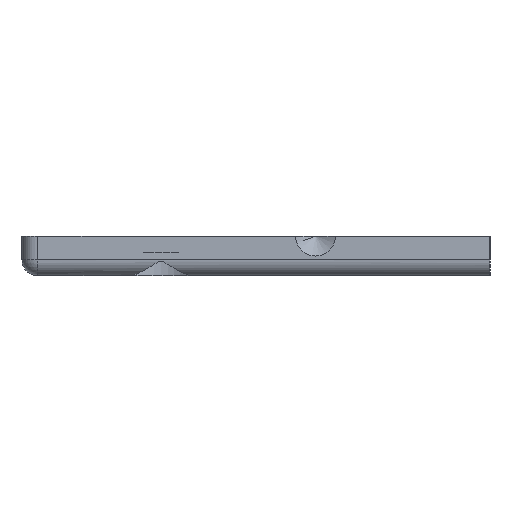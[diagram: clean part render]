
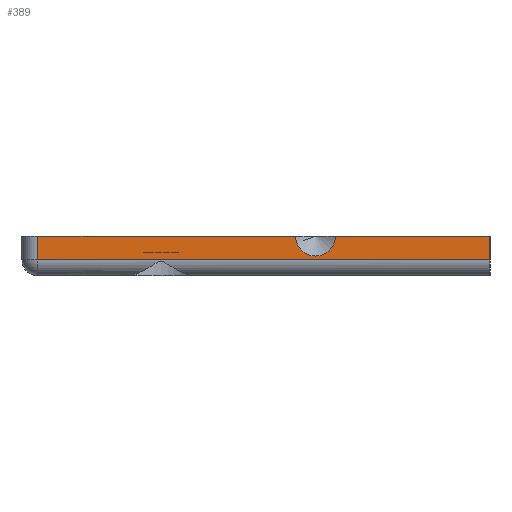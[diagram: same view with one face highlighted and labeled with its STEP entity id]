
A CAD part, left-side view. The second image highlights one B-rep face of the part: STEP entity #389.
In plain terms, the highlighted planar face has unit normal (-1, 0, 0).
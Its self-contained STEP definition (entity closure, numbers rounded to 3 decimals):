
#32 = PLANE('',#33);
#33 = AXIS2_PLACEMENT_3D('',#34,#35,#36);
#34 = CARTESIAN_POINT('',(-71.,-29.5,5.));
#35 = DIRECTION('',(0.,1.,0.));
#36 = DIRECTION('',(-1.,0.,0.));
#118 = VERTEX_POINT('',#119);
#119 = CARTESIAN_POINT('',(-71.,-29.5,5.));
#133 = PLANE('',#134);
#134 = AXIS2_PLACEMENT_3D('',#135,#136,#137);
#135 = CARTESIAN_POINT('',(0.,0.,5.));
#136 = DIRECTION('',(0.,0.,1.));
#137 = DIRECTION('',(1.,0.,-0.));
#145 = EDGE_CURVE('',#118,#146,#148,.T.);
#146 = VERTEX_POINT('',#147);
#147 = CARTESIAN_POINT('',(-71.,-29.5,2.));
#148 = SURFACE_CURVE('',#149,(#153,#160),.PCURVE_S1.);
#149 = LINE('',#150,#151);
#150 = CARTESIAN_POINT('',(-71.,-29.5,5.));
#151 = VECTOR('',#152,1.);
#152 = DIRECTION('',(0.,0.,-1.));
#153 = PCURVE('',#32,#154);
#154 = DEFINITIONAL_REPRESENTATION('',(#155),#159);
#155 = LINE('',#156,#157);
#156 = CARTESIAN_POINT('',(0.,0.));
#157 = VECTOR('',#158,1.);
#158 = DIRECTION('',(0.,-1.));
#159 = ( GEOMETRIC_REPRESENTATION_CONTEXT(2) 
PARAMETRIC_REPRESENTATION_CONTEXT() REPRESENTATION_CONTEXT('2D SPACE',''
  ) );
#160 = PCURVE('',#161,#166);
#161 = PLANE('',#162);
#162 = AXIS2_PLACEMENT_3D('',#163,#164,#165);
#163 = CARTESIAN_POINT('',(-71.,29.5,5.));
#164 = DIRECTION('',(1.,0.,0.));
#165 = DIRECTION('',(0.,0.,-1.));
#166 = DEFINITIONAL_REPRESENTATION('',(#167),#171);
#167 = LINE('',#168,#169);
#168 = CARTESIAN_POINT('',(0.,-59.));
#169 = VECTOR('',#170,1.);
#170 = DIRECTION('',(1.,0.));
#171 = ( GEOMETRIC_REPRESENTATION_CONTEXT(2) 
PARAMETRIC_REPRESENTATION_CONTEXT() REPRESENTATION_CONTEXT('2D SPACE',''
  ) );
#192 = CYLINDRICAL_SURFACE('',#193,2.);
#193 = AXIS2_PLACEMENT_3D('',#194,#195,#196);
#194 = CARTESIAN_POINT('',(-69.,29.5,2.));
#195 = DIRECTION('',(0.,-1.,0.));
#196 = DIRECTION('',(0.,0.,-1.));
#378 = CYLINDRICAL_SURFACE('',#379,2.);
#379 = AXIS2_PLACEMENT_3D('',#380,#381,#382);
#380 = CARTESIAN_POINT('',(-69.,27.5,5.));
#381 = DIRECTION('',(0.,0.,-1.));
#382 = DIRECTION('',(-1.,0.,0.));
#389 = ADVANCED_FACE('',(#390),#161,.F.);
#390 = FACE_BOUND('',#391,.T.);
#391 = EDGE_LOOP('',(#392,#415,#444,#467,#490,#511));
#392 = ORIENTED_EDGE('',*,*,#393,.F.);
#393 = EDGE_CURVE('',#394,#118,#396,.T.);
#394 = VERTEX_POINT('',#395);
#395 = CARTESIAN_POINT('',(-71.,-10.,5.));
#396 = SURFACE_CURVE('',#397,(#401,#408),.PCURVE_S1.);
#397 = LINE('',#398,#399);
#398 = CARTESIAN_POINT('',(-71.,29.5,5.));
#399 = VECTOR('',#400,1.);
#400 = DIRECTION('',(0.,-1.,0.));
#401 = PCURVE('',#161,#402);
#402 = DEFINITIONAL_REPRESENTATION('',(#403),#407);
#403 = LINE('',#404,#405);
#404 = CARTESIAN_POINT('',(0.,0.));
#405 = VECTOR('',#406,1.);
#406 = DIRECTION('',(0.,-1.));
#407 = ( GEOMETRIC_REPRESENTATION_CONTEXT(2) 
PARAMETRIC_REPRESENTATION_CONTEXT() REPRESENTATION_CONTEXT('2D SPACE',''
  ) );
#408 = PCURVE('',#133,#409);
#409 = DEFINITIONAL_REPRESENTATION('',(#410),#414);
#410 = LINE('',#411,#412);
#411 = CARTESIAN_POINT('',(-71.,29.5));
#412 = VECTOR('',#413,1.);
#413 = DIRECTION('',(0.,-1.));
#414 = ( GEOMETRIC_REPRESENTATION_CONTEXT(2) 
PARAMETRIC_REPRESENTATION_CONTEXT() REPRESENTATION_CONTEXT('2D SPACE',''
  ) );
#415 = ORIENTED_EDGE('',*,*,#416,.T.);
#416 = EDGE_CURVE('',#394,#417,#419,.T.);
#417 = VERTEX_POINT('',#418);
#418 = CARTESIAN_POINT('',(-71.,-5.,5.));
#419 = SURFACE_CURVE('',#420,(#425,#432),.PCURVE_S1.);
#420 = CIRCLE('',#421,2.5);
#421 = AXIS2_PLACEMENT_3D('',#422,#423,#424);
#422 = CARTESIAN_POINT('',(-71.,-7.5,5.));
#423 = DIRECTION('',(1.,0.,0.));
#424 = DIRECTION('',(0.,0.,-1.));
#425 = PCURVE('',#161,#426);
#426 = DEFINITIONAL_REPRESENTATION('',(#427),#431);
#427 = CIRCLE('',#428,2.5);
#428 = AXIS2_PLACEMENT_2D('',#429,#430);
#429 = CARTESIAN_POINT('',(0.,-37.));
#430 = DIRECTION('',(1.,0.));
#431 = ( GEOMETRIC_REPRESENTATION_CONTEXT(2) 
PARAMETRIC_REPRESENTATION_CONTEXT() REPRESENTATION_CONTEXT('2D SPACE',''
  ) );
#432 = PCURVE('',#433,#438);
#433 = CYLINDRICAL_SURFACE('',#434,2.5);
#434 = AXIS2_PLACEMENT_3D('',#435,#436,#437);
#435 = CARTESIAN_POINT('',(-71.,-7.5,5.));
#436 = DIRECTION('',(1.,0.,0.));
#437 = DIRECTION('',(0.,0.,-1.));
#438 = DEFINITIONAL_REPRESENTATION('',(#439),#443);
#439 = LINE('',#440,#441);
#440 = CARTESIAN_POINT('',(0.,0.));
#441 = VECTOR('',#442,1.);
#442 = DIRECTION('',(1.,0.));
#443 = ( GEOMETRIC_REPRESENTATION_CONTEXT(2) 
PARAMETRIC_REPRESENTATION_CONTEXT() REPRESENTATION_CONTEXT('2D SPACE',''
  ) );
#444 = ORIENTED_EDGE('',*,*,#445,.F.);
#445 = EDGE_CURVE('',#446,#417,#448,.T.);
#446 = VERTEX_POINT('',#447);
#447 = CARTESIAN_POINT('',(-71.,27.5,5.));
#448 = SURFACE_CURVE('',#449,(#453,#460),.PCURVE_S1.);
#449 = LINE('',#450,#451);
#450 = CARTESIAN_POINT('',(-71.,29.5,5.));
#451 = VECTOR('',#452,1.);
#452 = DIRECTION('',(0.,-1.,0.));
#453 = PCURVE('',#161,#454);
#454 = DEFINITIONAL_REPRESENTATION('',(#455),#459);
#455 = LINE('',#456,#457);
#456 = CARTESIAN_POINT('',(0.,0.));
#457 = VECTOR('',#458,1.);
#458 = DIRECTION('',(0.,-1.));
#459 = ( GEOMETRIC_REPRESENTATION_CONTEXT(2) 
PARAMETRIC_REPRESENTATION_CONTEXT() REPRESENTATION_CONTEXT('2D SPACE',''
  ) );
#460 = PCURVE('',#133,#461);
#461 = DEFINITIONAL_REPRESENTATION('',(#462),#466);
#462 = LINE('',#463,#464);
#463 = CARTESIAN_POINT('',(-71.,29.5));
#464 = VECTOR('',#465,1.);
#465 = DIRECTION('',(0.,-1.));
#466 = ( GEOMETRIC_REPRESENTATION_CONTEXT(2) 
PARAMETRIC_REPRESENTATION_CONTEXT() REPRESENTATION_CONTEXT('2D SPACE',''
  ) );
#467 = ORIENTED_EDGE('',*,*,#468,.T.);
#468 = EDGE_CURVE('',#446,#469,#471,.T.);
#469 = VERTEX_POINT('',#470);
#470 = CARTESIAN_POINT('',(-71.,27.5,2.));
#471 = SURFACE_CURVE('',#472,(#476,#483),.PCURVE_S1.);
#472 = LINE('',#473,#474);
#473 = CARTESIAN_POINT('',(-71.,27.5,5.));
#474 = VECTOR('',#475,1.);
#475 = DIRECTION('',(0.,0.,-1.));
#476 = PCURVE('',#161,#477);
#477 = DEFINITIONAL_REPRESENTATION('',(#478),#482);
#478 = LINE('',#479,#480);
#479 = CARTESIAN_POINT('',(0.,-2.));
#480 = VECTOR('',#481,1.);
#481 = DIRECTION('',(1.,0.));
#482 = ( GEOMETRIC_REPRESENTATION_CONTEXT(2) 
PARAMETRIC_REPRESENTATION_CONTEXT() REPRESENTATION_CONTEXT('2D SPACE',''
  ) );
#483 = PCURVE('',#378,#484);
#484 = DEFINITIONAL_REPRESENTATION('',(#485),#489);
#485 = LINE('',#486,#487);
#486 = CARTESIAN_POINT('',(0.,0.));
#487 = VECTOR('',#488,1.);
#488 = DIRECTION('',(0.,1.));
#489 = ( GEOMETRIC_REPRESENTATION_CONTEXT(2) 
PARAMETRIC_REPRESENTATION_CONTEXT() REPRESENTATION_CONTEXT('2D SPACE',''
  ) );
#490 = ORIENTED_EDGE('',*,*,#491,.T.);
#491 = EDGE_CURVE('',#469,#146,#492,.T.);
#492 = SURFACE_CURVE('',#493,(#497,#504),.PCURVE_S1.);
#493 = LINE('',#494,#495);
#494 = CARTESIAN_POINT('',(-71.,29.5,2.));
#495 = VECTOR('',#496,1.);
#496 = DIRECTION('',(0.,-1.,0.));
#497 = PCURVE('',#161,#498);
#498 = DEFINITIONAL_REPRESENTATION('',(#499),#503);
#499 = LINE('',#500,#501);
#500 = CARTESIAN_POINT('',(3.,0.));
#501 = VECTOR('',#502,1.);
#502 = DIRECTION('',(0.,-1.));
#503 = ( GEOMETRIC_REPRESENTATION_CONTEXT(2) 
PARAMETRIC_REPRESENTATION_CONTEXT() REPRESENTATION_CONTEXT('2D SPACE',''
  ) );
#504 = PCURVE('',#192,#505);
#505 = DEFINITIONAL_REPRESENTATION('',(#506),#510);
#506 = LINE('',#507,#508);
#507 = CARTESIAN_POINT('',(4.712,0.));
#508 = VECTOR('',#509,1.);
#509 = DIRECTION('',(0.,1.));
#510 = ( GEOMETRIC_REPRESENTATION_CONTEXT(2) 
PARAMETRIC_REPRESENTATION_CONTEXT() REPRESENTATION_CONTEXT('2D SPACE',''
  ) );
#511 = ORIENTED_EDGE('',*,*,#145,.F.);
